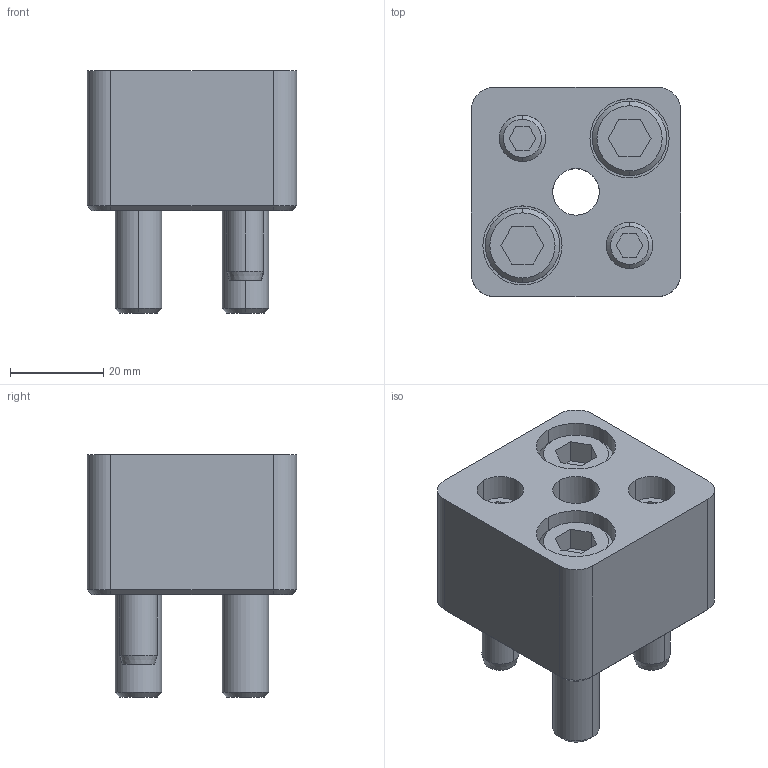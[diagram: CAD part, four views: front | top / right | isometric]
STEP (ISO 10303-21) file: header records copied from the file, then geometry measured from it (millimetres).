
FILE_DESCRIPTION(/* description */ (''),/* implementation_level */ '2;1');
FILE_NAME(/* name */ '3d_hmpdr10_04137_r00.stp',/* time_stamp */ '2011-01-10T14:14:42+09:00',/* author */ ('MISUMI'),/* organization */ (''),/* preprocessor_version */ 'ST-DEVELOPER v11',/* originating_system */ 'UGS - NX 5.0',/* authorisation */ '');
FILE_SCHEMA (('CONFIG_CONTROL_DESIGN'));
Length unit declared in the file: millimetre
Products named in the file (1): 3d_hmpdr10_04137_r00
Bounding box: 45 x 45 x 52 mm (x, y, z)
Volume: 58176.4 mm3; surface area: 21032.4 mm2
Topology: 7 solids, 7 shells, 147 faces, 326 edges, 207 vertices
Faces by surface type: plane 66, cylinder 51, cone 30
Entity records: 4196 total; most frequent: DIRECTION 744, CARTESIAN_POINT 740, ORIENTED_EDGE 652, EDGE_CURVE 326, AXIS2_PLACEMENT_3D 281, VERTEX_POINT 207, LINE 182, VECTOR 182
